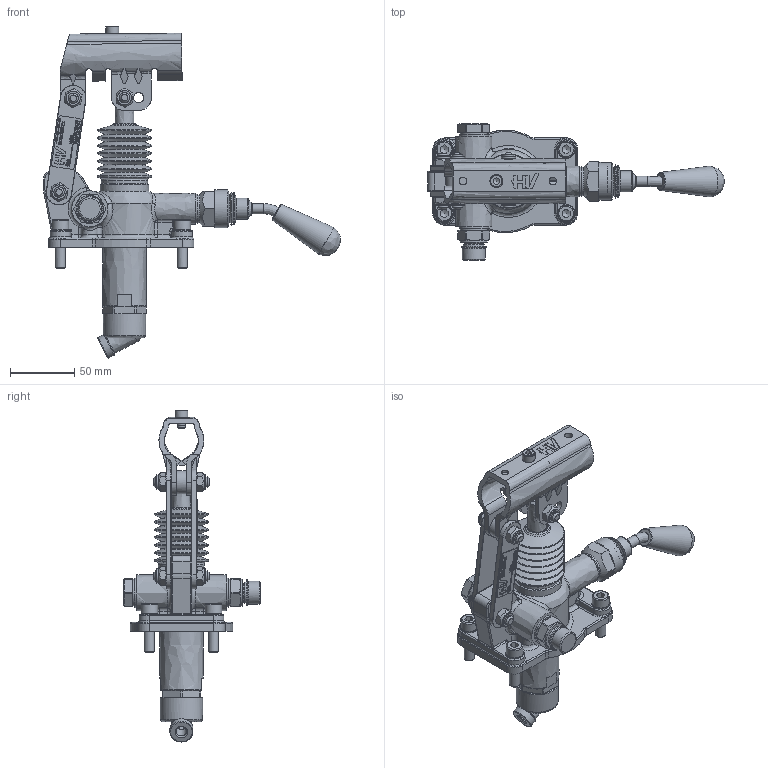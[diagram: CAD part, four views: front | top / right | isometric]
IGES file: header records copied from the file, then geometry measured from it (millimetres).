
Global section: file name: No Iges File Name specified; native system: Autodesk Inventor 2013; preprocessor: AutoDesk Inventor Iges Exporter R2013; author: christian.scardovi; date: 20240228.074128; units: millimetre
Bounding box: 231.27 x 106.5 x 258.81 mm (x, y, z)
Volume: 415281.4 mm3; surface area: 124561.7 mm2
Topology: 3 solids, 3 shells, 1481 faces, 3703 edges, 2332 vertices
Faces by surface type: bspline 1481
